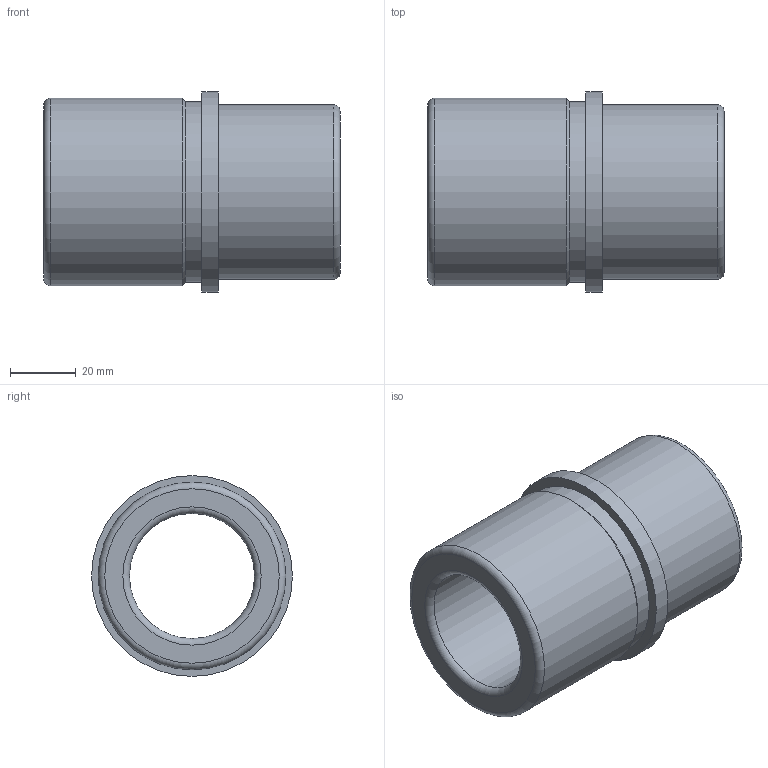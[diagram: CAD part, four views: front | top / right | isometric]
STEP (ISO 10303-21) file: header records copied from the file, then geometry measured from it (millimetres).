
FILE_DESCRIPTION( ( 'STEP AP214' ), '1' );
FILE_NAME( 'p:/temp/worker_57/temp/exporttempdir_5292_47_aoNr0/format_0/WZ - 4053 32 x 90 - 38.stp', '2020-12-06T13:43:12', ( 'License CC BY-ND 4.0' ), ( 'CADENAS' ), ' ', 'PARTsolutions', ' ' );
FILE_SCHEMA( ( 'AUTOMOTIVE_DESIGN { 1 0 10303 214 1 1 1 1 }' ) );
Length unit declared in the file: millimetre
Products named in the file (1): _WZ - 4053 32 x 90 - 38
Bounding box: 90 x 61 x 61 mm (x, y, z)
Volume: 115185.5 mm3; surface area: 29747.8 mm2
Topology: 1 solids, 1 shells, 14 faces, 24 edges, 14 vertices
Faces by surface type: cylinder 5, plane 4, torus 4, cone 1
Full cylindrical faces by diameter (mm): 38 x1, 53 x1, 55 x1, 57 x1, 61 x1
Entity records: 416 total; most frequent: DIRECTION 58, CARTESIAN_POINT 43, AXIS2_PLACEMENT_3D 29, EDGE_LOOP 28, ORIENTED_EDGE 28, FACE_OUTER_BOUND 23, STYLED_ITEM 14, PRESENTATION_STYLE_ASSIGNMENT 14
